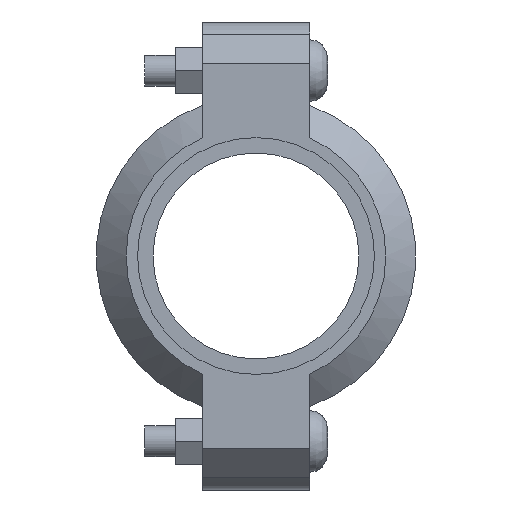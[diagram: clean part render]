
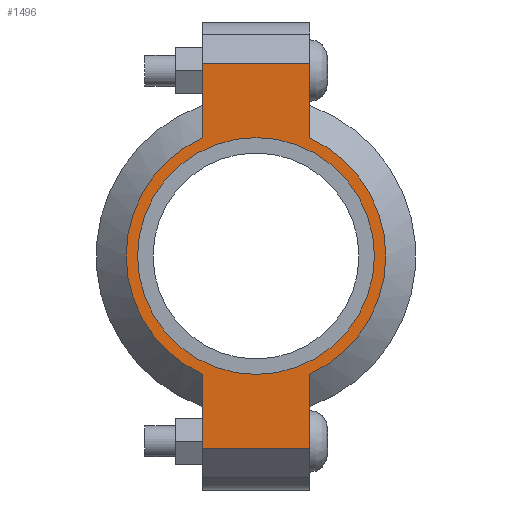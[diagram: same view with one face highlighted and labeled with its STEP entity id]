
A CAD part, left-side view. The second image highlights one B-rep face of the part: STEP entity #1496.
In plain terms, the highlighted planar face has unit normal (-1, 0, 0) as drawn and (0, 0, 1) by its records, which use the part's own axes.
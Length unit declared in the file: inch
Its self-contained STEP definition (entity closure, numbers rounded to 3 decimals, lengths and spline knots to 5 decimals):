
#176=LINE('',#2595,#267);
#184=LINE('',#2631,#275);
#191=LINE('',#2652,#282);
#200=LINE('',#2684,#291);
#201=LINE('',#2688,#292);
#202=LINE('',#2690,#293);
#267=VECTOR('',#2097,0.3937);
#275=VECTOR('',#2113,0.3937);
#282=VECTOR('',#2132,0.3937);
#291=VECTOR('',#2157,0.3937);
#292=VECTOR('',#2162,0.3937);
#293=VECTOR('',#2163,0.3937);
#345=FACE_BOUND('',#505,.T.);
#409=FACE_OUTER_BOUND('',#504,.T.);
#504=EDGE_LOOP('',(#1231,#1232,#1233,#1234,#1235,#1236,#1237,#1238));
#505=EDGE_LOOP('',(#1239));
#602=CIRCLE('',#1757,1.575);
#603=CIRCLE('',#1758,1.575);
#604=CIRCLE('',#1759,1.4375);
#707=VERTEX_POINT('',#2592);
#708=VERTEX_POINT('',#2594);
#719=VERTEX_POINT('',#2626);
#720=VERTEX_POINT('',#2630);
#727=VERTEX_POINT('',#2649);
#728=VERTEX_POINT('',#2651);
#738=VERTEX_POINT('',#2687);
#739=VERTEX_POINT('',#2689);
#740=VERTEX_POINT('',#2692);
#871=EDGE_CURVE('',#708,#707,#176,.T.);
#885=EDGE_CURVE('',#720,#719,#184,.T.);
#895=EDGE_CURVE('',#728,#727,#191,.T.);
#910=EDGE_CURVE('',#720,#707,#200,.T.);
#911=EDGE_CURVE('',#719,#728,#602,.T.);
#912=EDGE_CURVE('',#738,#727,#201,.T.);
#913=EDGE_CURVE('',#738,#739,#202,.T.);
#914=EDGE_CURVE('',#739,#708,#603,.T.);
#915=EDGE_CURVE('',#740,#740,#604,.T.);
#1231=ORIENTED_EDGE('',*,*,#910,.F.);
#1232=ORIENTED_EDGE('',*,*,#885,.T.);
#1233=ORIENTED_EDGE('',*,*,#911,.T.);
#1234=ORIENTED_EDGE('',*,*,#895,.T.);
#1235=ORIENTED_EDGE('',*,*,#912,.F.);
#1236=ORIENTED_EDGE('',*,*,#913,.T.);
#1237=ORIENTED_EDGE('',*,*,#914,.T.);
#1238=ORIENTED_EDGE('',*,*,#871,.T.);
#1239=ORIENTED_EDGE('',*,*,#915,.T.);
#1350=PLANE('',#1756);
#1496=ADVANCED_FACE('',(#409,#345),#1350,.T.);
#1756=AXIS2_PLACEMENT_3D('',#2685,#2158,#2159);
#1757=AXIS2_PLACEMENT_3D('',#2686,#2160,#2161);
#1758=AXIS2_PLACEMENT_3D('',#2691,#2164,#2165);
#1759=AXIS2_PLACEMENT_3D('',#2693,#2166,#2167);
#2097=DIRECTION('',(1.,0.,0.));
#2113=DIRECTION('',(-1.,0.,0.));
#2132=DIRECTION('',(-1.,0.,0.));
#2157=DIRECTION('',(0.,-1.,0.));
#2158=DIRECTION('center_axis',(0.,0.,1.));
#2159=DIRECTION('ref_axis',(-1.,0.,0.));
#2160=DIRECTION('center_axis',(0.,0.,1.));
#2161=DIRECTION('ref_axis',(1.,0.,0.));
#2162=DIRECTION('',(0.,1.,0.));
#2163=DIRECTION('',(1.,0.,0.));
#2164=DIRECTION('center_axis',(0.,0.,1.));
#2165=DIRECTION('ref_axis',(1.,0.,0.));
#2166=DIRECTION('center_axis',(0.,0.,-1.));
#2167=DIRECTION('ref_axis',(1.,0.,0.));
#2592=CARTESIAN_POINT('',(2.34,-0.65,0.94));
#2594=CARTESIAN_POINT('',(1.43462,-0.65,0.94));
#2595=CARTESIAN_POINT('',(2.84,-0.65,0.94));
#2626=CARTESIAN_POINT('',(1.43462,0.65,0.94));
#2630=CARTESIAN_POINT('',(2.34,0.65,0.94));
#2631=CARTESIAN_POINT('',(-2.84,0.65,0.94));
#2649=CARTESIAN_POINT('',(-2.34,0.65,0.94));
#2651=CARTESIAN_POINT('',(-1.43462,0.65,0.94));
#2652=CARTESIAN_POINT('',(-2.84,0.65,0.94));
#2684=CARTESIAN_POINT('',(2.34,-0.325,0.94));
#2685=CARTESIAN_POINT('Origin',(0.,0.,
0.94));
#2686=CARTESIAN_POINT('Origin',(0.,0.,0.94));
#2687=CARTESIAN_POINT('',(-2.34,-0.65,0.94));
#2688=CARTESIAN_POINT('',(-2.34,0.325,0.94));
#2689=CARTESIAN_POINT('',(-1.43462,-0.65,0.94));
#2690=CARTESIAN_POINT('',(2.84,-0.65,0.94));
#2691=CARTESIAN_POINT('Origin',(0.,0.,0.94));
#2692=CARTESIAN_POINT('',(-1.4375,0.,0.94));
#2693=CARTESIAN_POINT('Origin',(0.,0.,0.94));
